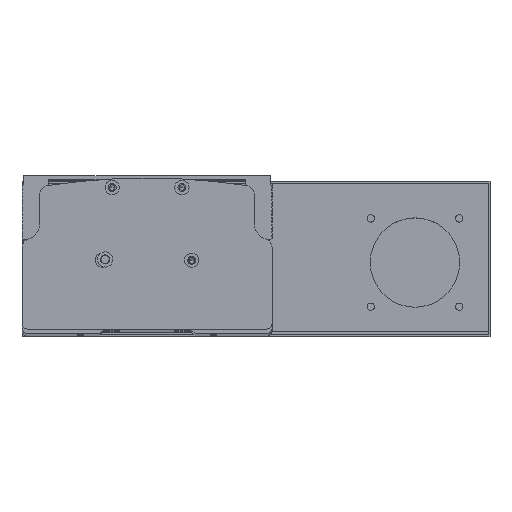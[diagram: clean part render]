
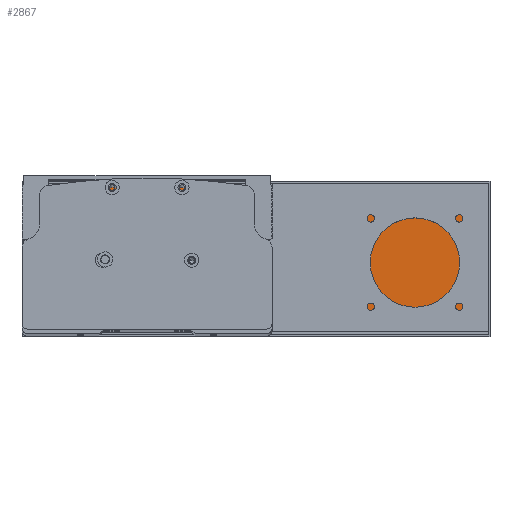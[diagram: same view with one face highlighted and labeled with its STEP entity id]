
A CAD part, top view. The second image highlights one B-rep face of the part: STEP entity #2867.
In plain terms, the highlighted planar face has unit normal (0, 0, 1).
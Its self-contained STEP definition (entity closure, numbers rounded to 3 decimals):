
#1423 = ORIENTED_EDGE ( 'NONE', *, *, #4256, .T. ) ;
#1576 = VECTOR ( 'NONE', #22371, 1000. ) ;
#2413 = CARTESIAN_POINT ( 'NONE',  ( -130., 42.5, 0. ) ) ;
#2472 = LINE ( 'NONE', #16584, #1576 ) ;
#2867 = ADVANCED_FACE ( 'NONE', ( #35817 ), #22255, .T. ) ;
#3838 = VERTEX_POINT ( 'NONE', #7029 ) ;
#4138 = EDGE_CURVE ( 'NONE', #3838, #22487, #20486, .T. ) ;
#4256 = EDGE_CURVE ( 'NONE', #32705, #3838, #2472, .T. ) ;
#4928 = VECTOR ( 'NONE', #31571, 1000. ) ;
#5039 = CARTESIAN_POINT ( 'NONE',  ( 0., 0., 0. ) ) ;
#6351 = CARTESIAN_POINT ( 'NONE',  ( 130., 42.5, 0. ) ) ;
#7029 = CARTESIAN_POINT ( 'NONE',  ( 130., -42.5, 0. ) ) ;
#7946 = DIRECTION ( 'NONE',  ( 1., 0., 0. ) ) ;
#8323 = EDGE_CURVE ( 'NONE', #22487, #18657, #12601, .T. ) ;
#10168 = EDGE_LOOP ( 'NONE', ( #1423, #29835, #29961, #29596 ) ) ;
#12601 = LINE ( 'NONE', #28704, #4928 ) ;
#16496 = CARTESIAN_POINT ( 'NONE',  ( -130., -42.5, 0. ) ) ;
#16584 = CARTESIAN_POINT ( 'NONE',  ( -130., -42.5, 0. ) ) ;
#18657 = VERTEX_POINT ( 'NONE', #2413 ) ;
#18841 = EDGE_CURVE ( 'NONE', #18657, #32705, #32732, .T. ) ;
#20486 = LINE ( 'NONE', #33321, #34913 ) ;
#21861 = DIRECTION ( 'NONE',  ( 0., 1., 0. ) ) ;
#22255 = PLANE ( 'NONE',  #24498 ) ;
#22371 = DIRECTION ( 'NONE',  ( 1., 0., 0. ) ) ;
#22487 = VERTEX_POINT ( 'NONE', #6351 ) ;
#24498 = AXIS2_PLACEMENT_3D ( 'NONE', #5039, #25160, #7946 ) ;
#25076 = VECTOR ( 'NONE', #33739, 1000. ) ;
#25160 = DIRECTION ( 'NONE',  ( 0., 0., 1. ) ) ;
#28704 = CARTESIAN_POINT ( 'NONE',  ( -130., 42.5, 0. ) ) ;
#29596 = ORIENTED_EDGE ( 'NONE', *, *, #18841, .T. ) ;
#29835 = ORIENTED_EDGE ( 'NONE', *, *, #4138, .T. ) ;
#29961 = ORIENTED_EDGE ( 'NONE', *, *, #8323, .T. ) ;
#31571 = DIRECTION ( 'NONE',  ( -1., 0., 0. ) ) ;
#31943 = CARTESIAN_POINT ( 'NONE',  ( -130., -42.5, 0. ) ) ;
#32705 = VERTEX_POINT ( 'NONE', #31943 ) ;
#32732 = LINE ( 'NONE', #16496, #25076 ) ;
#33321 = CARTESIAN_POINT ( 'NONE',  ( 130., -42.5, 0. ) ) ;
#33739 = DIRECTION ( 'NONE',  ( 0., -1., 0. ) ) ;
#34913 = VECTOR ( 'NONE', #21861, 1000. ) ;
#35817 = FACE_OUTER_BOUND ( 'NONE', #10168, .T. ) ;
